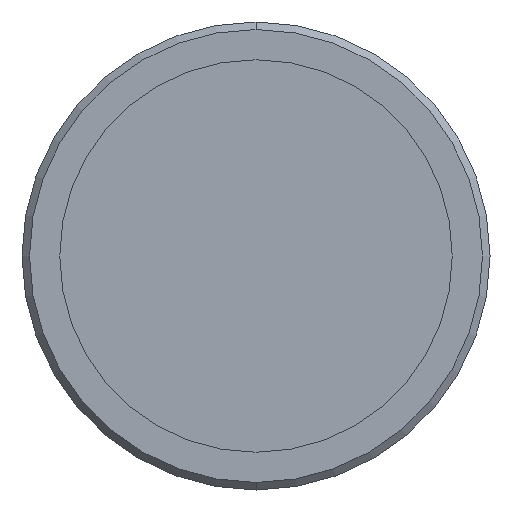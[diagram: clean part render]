
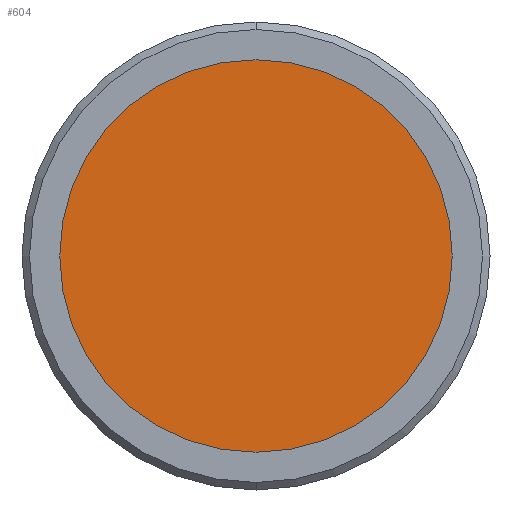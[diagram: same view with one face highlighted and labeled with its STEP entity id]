
A CAD part, front view. The second image highlights one B-rep face of the part: STEP entity #604.
In plain terms, the highlighted planar face has unit normal (0, -1, 0).
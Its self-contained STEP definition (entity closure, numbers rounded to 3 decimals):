
#102 = DIRECTION ( 'NONE',  ( 0., -1., 0. ) ) ;
#112 = AXIS2_PLACEMENT_3D ( 'NONE', #751, #729, #194 ) ;
#194 = DIRECTION ( 'NONE',  ( 0., 0., 1. ) ) ;
#201 = CARTESIAN_POINT ( 'NONE',  ( 0., -9., 0. ) ) ;
#248 = AXIS2_PLACEMENT_3D ( 'NONE', #201, #102, #521 ) ;
#281 = PLANE ( 'NONE',  #248 ) ;
#360 = CARTESIAN_POINT ( 'NONE',  ( 0., -9., 0. ) ) ;
#365 = ORIENTED_EDGE ( 'NONE', *, *, #769, .F. ) ;
#447 = EDGE_CURVE ( 'NONE', #452, #1102, #701, .T. ) ;
#452 = VERTEX_POINT ( 'NONE', #1045 ) ;
#458 = DIRECTION ( 'NONE',  ( 0., 0., 1. ) ) ;
#479 = EDGE_LOOP ( 'NONE', ( #820, #365 ) ) ;
#521 = DIRECTION ( 'NONE',  ( 0., 0., -1. ) ) ;
#549 = AXIS2_PLACEMENT_3D ( 'NONE', #360, #966, #458 ) ;
#585 = CARTESIAN_POINT ( 'NONE',  ( 0., -9., -13. ) ) ;
#604 = ADVANCED_FACE ( 'NONE', ( #914 ), #281, .T. ) ;
#701 = CIRCLE ( 'NONE', #549, 13. ) ;
#729 = DIRECTION ( 'NONE',  ( 0., 1., 0. ) ) ;
#751 = CARTESIAN_POINT ( 'NONE',  ( 0., -9., 0. ) ) ;
#769 = EDGE_CURVE ( 'NONE', #1102, #452, #996, .T. ) ;
#820 = ORIENTED_EDGE ( 'NONE', *, *, #447, .F. ) ;
#914 = FACE_OUTER_BOUND ( 'NONE', #479, .T. ) ;
#966 = DIRECTION ( 'NONE',  ( 0., 1., 0. ) ) ;
#996 = CIRCLE ( 'NONE', #112, 13. ) ;
#1045 = CARTESIAN_POINT ( 'NONE',  ( 0., -9., 13. ) ) ;
#1102 = VERTEX_POINT ( 'NONE', #585 ) ;
